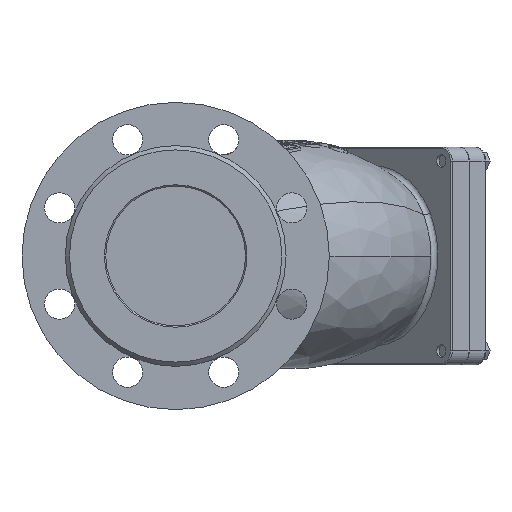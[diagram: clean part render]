
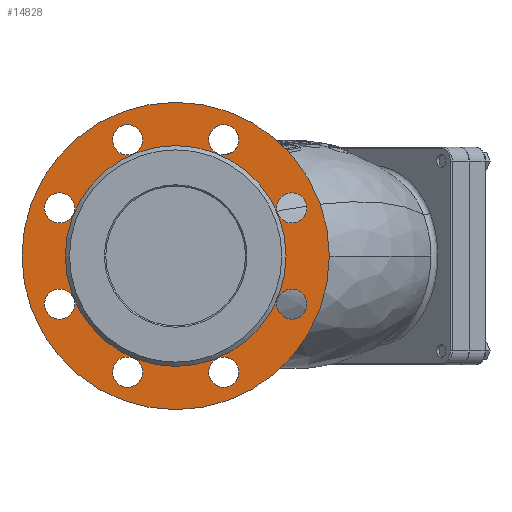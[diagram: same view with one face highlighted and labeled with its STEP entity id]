
A CAD part, left-side view. The second image highlights one B-rep face of the part: STEP entity #14828.
In plain terms, the highlighted planar face has unit normal (-1, 0, 0).
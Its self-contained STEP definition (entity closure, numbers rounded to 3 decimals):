
#951 = DIRECTION ( 'NONE',  ( 0., 0., -1. ) ) ;
#1092 = EDGE_CURVE ( 'NONE', #30704, #30704, #41122, .T. ) ;
#1275 = FACE_BOUND ( 'NONE', #44151, .T. ) ;
#1349 = EDGE_CURVE ( 'NONE', #2617, #2617, #36990, .T. ) ;
#1535 = FACE_BOUND ( 'NONE', #38912, .T. ) ;
#1875 = CARTESIAN_POINT ( 'NONE',  ( 3., 0., 0. ) ) ;
#2617 = VERTEX_POINT ( 'NONE', #23011 ) ;
#2707 = DIRECTION ( 'NONE',  ( 0., 0., -1. ) ) ;
#2883 = EDGE_CURVE ( 'NONE', #18528, #18528, #40062, .T. ) ;
#2940 = ORIENTED_EDGE ( 'NONE', *, *, #9707, .T. ) ;
#3195 = ORIENTED_EDGE ( 'NONE', *, *, #1349, .T. ) ;
#5142 = EDGE_LOOP ( 'NONE', ( #37403 ) ) ;
#5498 = PLANE ( 'NONE',  #11197 ) ;
#7687 = DIRECTION ( 'NONE',  ( 1., 0., 0. ) ) ;
#7700 = ORIENTED_EDGE ( 'NONE', *, *, #45919, .F. ) ;
#8101 = CARTESIAN_POINT ( 'NONE',  ( 3., 34.442, 83.149 ) ) ;
#8106 = DIRECTION ( 'NONE',  ( 1., 0., 0. ) ) ;
#9221 = FACE_BOUND ( 'NONE', #38190, .T. ) ;
#9478 = FACE_BOUND ( 'NONE', #12845, .T. ) ;
#9707 = EDGE_CURVE ( 'NONE', #26715, #26715, #47870, .T. ) ;
#9976 = CIRCLE ( 'NONE', #15054, 79. ) ;
#11101 = VERTEX_POINT ( 'NONE', #20089 ) ;
#11151 = ORIENTED_EDGE ( 'NONE', *, *, #36495, .T. ) ;
#11197 = AXIS2_PLACEMENT_3D ( 'NONE', #41293, #20655, #32326 ) ;
#11872 = VERTEX_POINT ( 'NONE', #28019 ) ;
#12662 = VERTEX_POINT ( 'NONE', #33582 ) ;
#12845 = EDGE_LOOP ( 'NONE', ( #11151 ) ) ;
#13402 = DIRECTION ( 'NONE',  ( 1., 0., 0. ) ) ;
#14378 = DIRECTION ( 'NONE',  ( 1., 0., 0. ) ) ;
#14828 = ADVANCED_FACE ( 'NONE', ( #30121, #26140, #21404, #1535, #25612, #9221, #37550, #1275, #9478, #25881 ), #5498, .T. ) ;
#15054 = AXIS2_PLACEMENT_3D ( 'NONE', #1875, #34179, #50319 ) ;
#16634 = CARTESIAN_POINT ( 'NONE',  ( 3., -34.442, -83.149 ) ) ;
#16865 = CARTESIAN_POINT ( 'NONE',  ( 3., 83.149, 34.442 ) ) ;
#17102 = EDGE_CURVE ( 'NONE', #11101, #11101, #47281, .T. ) ;
#17278 = AXIS2_PLACEMENT_3D ( 'NONE', #27328, #39251, #2707 ) ;
#18318 = AXIS2_PLACEMENT_3D ( 'NONE', #47577, #51285, #22954 ) ;
#18528 = VERTEX_POINT ( 'NONE', #34919 ) ;
#19034 = EDGE_CURVE ( 'NONE', #20338, #20338, #23688, .T. ) ;
#19745 = DIRECTION ( 'NONE',  ( 0., 0., -1. ) ) ;
#20089 = CARTESIAN_POINT ( 'NONE',  ( 3., -34.442, -93.939 ) ) ;
#20338 = VERTEX_POINT ( 'NONE', #43388 ) ;
#20605 = VERTEX_POINT ( 'NONE', #32541 ) ;
#20655 = DIRECTION ( 'NONE',  ( -1., 0., 0. ) ) ;
#20829 = DIRECTION ( 'NONE',  ( 0., 0., -1. ) ) ;
#21075 = CIRCLE ( 'NONE', #26136, 10.79 ) ;
#21340 = CARTESIAN_POINT ( 'NONE',  ( 3., -34.442, 83.149 ) ) ;
#21404 = FACE_BOUND ( 'NONE', #39600, .T. ) ;
#21788 = EDGE_LOOP ( 'NONE', ( #3195 ) ) ;
#22954 = DIRECTION ( 'NONE',  ( 0., 0., -1. ) ) ;
#23011 = CARTESIAN_POINT ( 'NONE',  ( 3., 83.149, 23.652 ) ) ;
#23506 = EDGE_LOOP ( 'NONE', ( #37266 ) ) ;
#23511 = DIRECTION ( 'NONE',  ( 0., 0., -1. ) ) ;
#23688 = CIRCLE ( 'NONE', #43094, 10.79 ) ;
#24257 = DIRECTION ( 'NONE',  ( 0., 0., -1. ) ) ;
#25258 = EDGE_CURVE ( 'NONE', #11872, #11872, #9976, .T. ) ;
#25612 = FACE_BOUND ( 'NONE', #5142, .T. ) ;
#25881 = FACE_BOUND ( 'NONE', #40172, .T. ) ;
#26136 = AXIS2_PLACEMENT_3D ( 'NONE', #27482, #43630, #23511 ) ;
#26140 = FACE_BOUND ( 'NONE', #23506, .T. ) ;
#26715 = VERTEX_POINT ( 'NONE', #46593 ) ;
#27018 = CARTESIAN_POINT ( 'NONE',  ( 3., 83.149, -34.442 ) ) ;
#27328 = CARTESIAN_POINT ( 'NONE',  ( 3., -83.149, -34.442 ) ) ;
#27482 = CARTESIAN_POINT ( 'NONE',  ( 3., 34.442, -83.149 ) ) ;
#28019 = CARTESIAN_POINT ( 'NONE',  ( 3., 0., -79. ) ) ;
#29305 = DIRECTION ( 'NONE',  ( 1., 0., 0. ) ) ;
#30121 = FACE_OUTER_BOUND ( 'NONE', #30873, .T. ) ;
#30704 = VERTEX_POINT ( 'NONE', #38908 ) ;
#30776 = ORIENTED_EDGE ( 'NONE', *, *, #2883, .T. ) ;
#30815 = ORIENTED_EDGE ( 'NONE', *, *, #1092, .T. ) ;
#30873 = EDGE_LOOP ( 'NONE', ( #7700 ) ) ;
#32326 = DIRECTION ( 'NONE',  ( 0., 0., 1. ) ) ;
#32541 = CARTESIAN_POINT ( 'NONE',  ( 3., 34.442, -93.939 ) ) ;
#32563 = CIRCLE ( 'NONE', #46100, 110. ) ;
#33582 = CARTESIAN_POINT ( 'NONE',  ( 3., -34.442, 72.359 ) ) ;
#34179 = DIRECTION ( 'NONE',  ( 1., 0., 0. ) ) ;
#34435 = AXIS2_PLACEMENT_3D ( 'NONE', #16865, #8106, #24257 ) ;
#34563 = AXIS2_PLACEMENT_3D ( 'NONE', #16634, #29305, #20829 ) ;
#34919 = CARTESIAN_POINT ( 'NONE',  ( 3., -83.149, -45.231 ) ) ;
#36495 = EDGE_CURVE ( 'NONE', #20605, #20605, #21075, .T. ) ;
#36990 = CIRCLE ( 'NONE', #34435, 10.79 ) ;
#37266 = ORIENTED_EDGE ( 'NONE', *, *, #25258, .T. ) ;
#37403 = ORIENTED_EDGE ( 'NONE', *, *, #42986, .T. ) ;
#37550 = FACE_BOUND ( 'NONE', #21788, .T. ) ;
#38190 = EDGE_LOOP ( 'NONE', ( #2940 ) ) ;
#38501 = AXIS2_PLACEMENT_3D ( 'NONE', #21340, #13402, #951 ) ;
#38908 = CARTESIAN_POINT ( 'NONE',  ( 3., -83.149, 23.652 ) ) ;
#38912 = EDGE_LOOP ( 'NONE', ( #30815 ) ) ;
#39251 = DIRECTION ( 'NONE',  ( 1., 0., 0. ) ) ;
#39600 = EDGE_LOOP ( 'NONE', ( #30776 ) ) ;
#39607 = DIRECTION ( 'NONE',  ( 1., 0., 0. ) ) ;
#40062 = CIRCLE ( 'NONE', #17278, 10.79 ) ;
#40172 = EDGE_LOOP ( 'NONE', ( #42981 ) ) ;
#41122 = CIRCLE ( 'NONE', #18318, 10.79 ) ;
#41293 = CARTESIAN_POINT ( 'NONE',  ( 3., 0., 0. ) ) ;
#42177 = DIRECTION ( 'NONE',  ( 0., 0., -1. ) ) ;
#42726 = CIRCLE ( 'NONE', #38501, 10.79 ) ;
#42981 = ORIENTED_EDGE ( 'NONE', *, *, #17102, .T. ) ;
#42986 = EDGE_CURVE ( 'NONE', #12662, #12662, #42726, .T. ) ;
#43094 = AXIS2_PLACEMENT_3D ( 'NONE', #27018, #7687, #46900 ) ;
#43388 = CARTESIAN_POINT ( 'NONE',  ( 3., 83.149, -45.231 ) ) ;
#43630 = DIRECTION ( 'NONE',  ( 1., 0., 0. ) ) ;
#44151 = EDGE_LOOP ( 'NONE', ( #45414 ) ) ;
#45414 = ORIENTED_EDGE ( 'NONE', *, *, #19034, .T. ) ;
#45496 = CARTESIAN_POINT ( 'NONE',  ( 3., 0., -110. ) ) ;
#45919 = EDGE_CURVE ( 'NONE', #49457, #49457, #32563, .T. ) ;
#46100 = AXIS2_PLACEMENT_3D ( 'NONE', #50904, #14378, #42177 ) ;
#46593 = CARTESIAN_POINT ( 'NONE',  ( 3., 34.442, 72.359 ) ) ;
#46900 = DIRECTION ( 'NONE',  ( 0., 0., -1. ) ) ;
#47281 = CIRCLE ( 'NONE', #34563, 10.79 ) ;
#47577 = CARTESIAN_POINT ( 'NONE',  ( 3., -83.149, 34.442 ) ) ;
#47870 = CIRCLE ( 'NONE', #49537, 10.79 ) ;
#49457 = VERTEX_POINT ( 'NONE', #45496 ) ;
#49537 = AXIS2_PLACEMENT_3D ( 'NONE', #8101, #39607, #19745 ) ;
#50319 = DIRECTION ( 'NONE',  ( 0., 0., -1. ) ) ;
#50904 = CARTESIAN_POINT ( 'NONE',  ( 3., 0., 0. ) ) ;
#51285 = DIRECTION ( 'NONE',  ( 1., 0., 0. ) ) ;
